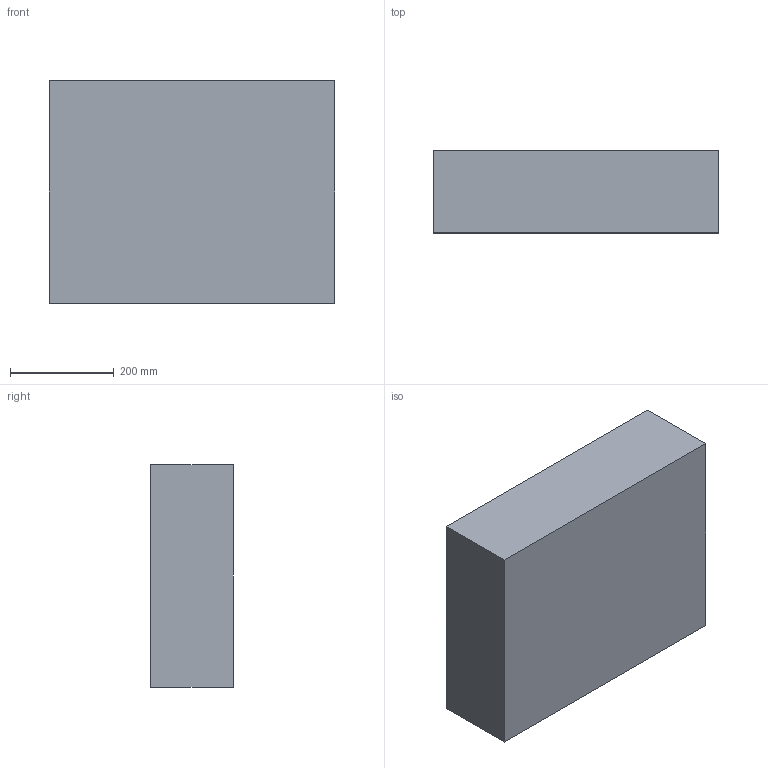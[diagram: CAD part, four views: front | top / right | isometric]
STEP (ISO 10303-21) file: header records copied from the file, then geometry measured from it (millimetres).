
FILE_DESCRIPTION (( 'STEP AP203' ), '1' );
FILE_NAME ('NANUK_940_Bottom.STEP', '2011-09-26T13:21:30', ( '' ), ( '' ), 'SwSTEP 2.0', 'SolidWorks 2011', '' );
FILE_SCHEMA (( 'CONFIG_CONTROL_DESIGN' ));
Products named in the file (1): NANUK_940_Bottom
Bounding box: 549.72 x 158.23 x 429.23 mm (x, y, z)
Volume: 11056423.9 mm3; surface area: 1014128.3 mm2
Topology: 1 solids, 1 shells, 468 faces, 1109 edges, 656 vertices
Faces by surface type: bspline 220, cylinder 164, plane 60, torus 20, cone 4
Entity records: 30933 total; most frequent: CARTESIAN_POINT 21779, ORIENTED_EDGE 2198, DIRECTION 1518, EDGE_CURVE 1099, VERTEX_POINT 656, AXIS2_PLACEMENT_3D 638, EDGE_LOOP 491, FACE_OUTER_BOUND 468
